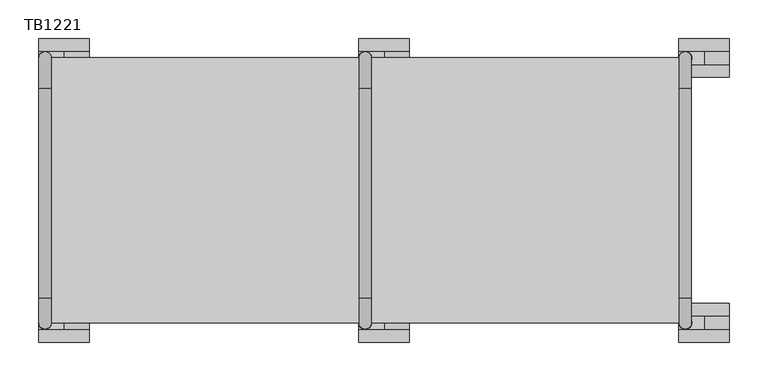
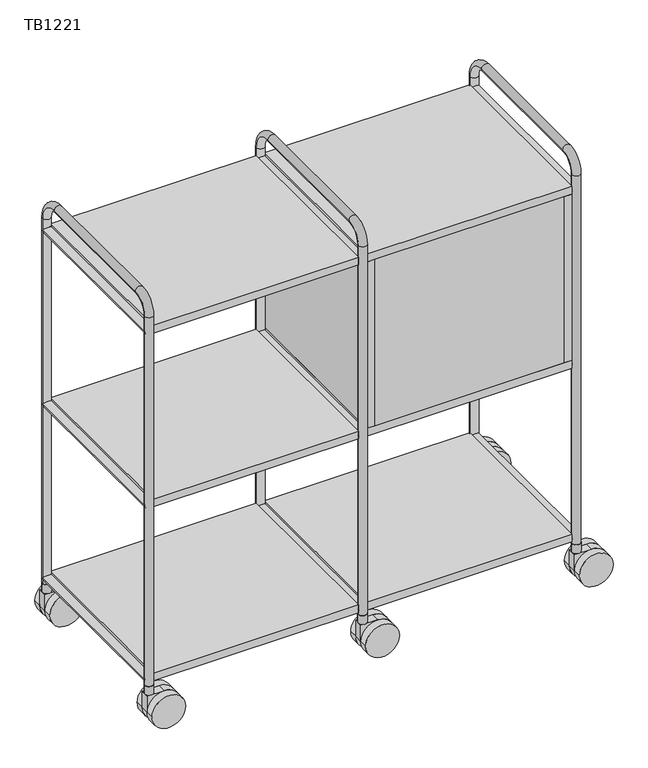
"""IFC4 building model written with IfcOpenShell, lengths in millimetres: furniture geometry, Tubbe Bookcase_Mobile Modular Bookcase : TB1221."""

from ifc_helpers import new_model, si_unit, point, frame, frame_2d, origin, place, context, project, spatial, polyline, circle_curve, ellipse_curve, trimmed, segment, composite_curve, outline, extrude, source, transform, mapped, element, save
from ifc_brep_helpers import plane_surface, cylinder_surface, revolved_surface, advanced_brep


def tb1221_f5202c44(model_context):
    return source(origin(), model_context, "Body", "SolidModel", [
        extrude(outline(polyline([(390.0, -171.5), (24.0, -171.5), (24.0, -155.5), (390.0, -155.5), (390.0, -171.5)])), frame((0.0, 0.0, 458.0), z_axis=(0.0, 0.0, 1.0), x_axis=(1.0, 0.0, 0.0)), (0.0, 0.0, 1.0), 340.0),
        extrude(outline(polyline([(390.0, 155.5), (24.0, 155.5), (24.0, 171.5), (390.0, 171.5), (390.0, 155.5)])), frame((0.0, 0.0, 458.0), z_axis=(0.0, 0.0, 1.0), x_axis=(1.0, 0.0, 0.0)), (0.0, 0.0, 1.0), 340.0),
        extrude(outline(polyline([(406.0, 171.5), (406.0, -171.5), (390.0, -171.5), (390.0, 171.5), (406.0, 171.5)])), frame((0.0, 0.0, 458.0), z_axis=(0.0, 0.0, 1.0), x_axis=(1.0, 0.0, 0.0)), (0.0, 0.0, 1.0), 340.0),
        extrude(outline(polyline([(24.0, 171.5), (24.0, -171.5), (8.0, -171.5), (8.0, 171.5), (24.0, 171.5)])), frame((0.0, 0.0, 458.0), z_axis=(0.0, 0.0, 1.0), x_axis=(1.0, 0.0, 0.0)), (0.0, 0.0, 1.0), 340.0),
        extrude(outline(polyline([(406.0, 171.5), (406.0, -171.5), (8.0, -171.5), (8.0, 171.5), (406.0, 171.5)])), frame((0.0, 0.0, 798.0), z_axis=(0.0, 0.0, 1.0), x_axis=(1.0, 0.0, 0.0)), (0.0, 0.0, 1.0), 16.0),
        extrude(outline(polyline([(406.0, 171.5), (406.0, -171.5), (8.0, -171.5), (8.0, 171.5), (406.0, 171.5)])), frame((0.0, 0.0, 442.0), z_axis=(0.0, 0.0, 1.0), x_axis=(1.0, 0.0, 0.0)), (0.0, 0.0, 1.0), 16.0),
        extrude(outline(polyline([(-8.0, 171.5), (-8.0, -171.5), (-406.0, -171.5), (-406.0, 171.5), (-8.0, 171.5)])), frame((0.0, 0.0, 442.0), z_axis=(0.0, 0.0, 1.0), x_axis=(1.0, 0.0, 0.0)), (0.0, 0.0, 1.0), 16.0),
        extrude(outline(polyline([(-8.0, 171.5), (-8.0, -171.5), (-406.0, -171.5), (-406.0, 171.5), (-8.0, 171.5)])), frame((0.0, 0.0, 86.0), z_axis=(0.0, 0.0, 1.0), x_axis=(1.0, 0.0, 0.0)), (0.0, 0.0, 1.0), 16.0),
        extrude(outline(polyline([(406.0, 171.5), (406.0, -171.5), (8.0, -171.5), (8.0, 171.5), (406.0, 171.5)])), frame((0.0, 0.0, 86.0), z_axis=(0.0, 0.0, 1.0), x_axis=(1.0, 0.0, 0.0)), (0.0, 0.0, 1.0), 16.0),
        extrude(outline(polyline([(-8.0, 171.5), (-8.0, -171.5), (-406.0, -171.5), (-406.0, 171.5), (-8.0, 171.5)])), frame((0.0, 0.0, 798.0), z_axis=(0.0, 0.0, 1.0), x_axis=(1.0, 0.0, 0.0)), (0.0, 0.0, 1.0), 16.0),
        extrude(outline(composite_curve([segment(trimmed(circle_curve(frame_2d((414.0, -171.5)), 8.3333333), [point((405.6666667, -171.5))], [point((422.3333333, -171.5))], False, "CARTESIAN"), True, "CONTINUOUS"), segment(trimmed(circle_curve(frame_2d((414.0, -171.5)), 8.3333333), [point((422.3333333, -171.5))], [point((405.6666667, -171.5))], False, "CARTESIAN"), True, "CONTINUOUS")], self_intersect=False)), frame((0.0, 0.0, 65.3), z_axis=(0.0, 0.0, 1.0), x_axis=(1.0, 0.0, 0.0)), (0.0, 0.0, 1.0), 17.6),
        extrude(outline(composite_curve([segment(polyline([(65.3, 438.32), (65.3, 405.67), (32.65, 405.67), (32.65, 470.97)]), True, "CONTINUOUS"), segment(trimmed(circle_curve(frame_2d((32.65, 438.32)), 32.65), [point((32.65, 470.97))], [point((65.3, 438.32))], False, "CARTESIAN"), True, "CONTINUOUS")], self_intersect=False)), frame((0.0, -179.8333333, 0.0), z_axis=(0.0, 1.0, 0.0), x_axis=(0.0, 0.0, 1.0)), (0.0, 0.0, 1.0), 16.6666667),
        extrude(outline(composite_curve([segment(trimmed(circle_curve(frame_2d((32.65, 438.32)), 32.65), [point((32.65, 405.67))], [point((32.65, 470.97))], False, "CARTESIAN"), True, "CONTINUOUS"), segment(trimmed(circle_curve(frame_2d((32.65, 438.32)), 32.65), [point((32.65, 470.97))], [point((32.65, 405.67))], False, "CARTESIAN"), True, "CONTINUOUS")], self_intersect=False)), frame((0.0, -163.1666667, 0.0), z_axis=(0.0, 1.0, 0.0), x_axis=(0.0, 0.0, 1.0)), (0.0, 0.0, 1.0), 16.6666667),
        extrude(outline(composite_curve([segment(trimmed(circle_curve(frame_2d((32.65, 438.32)), 32.65), [point((32.65, 405.67))], [point((32.65, 470.97))], False, "CARTESIAN"), True, "CONTINUOUS"), segment(trimmed(circle_curve(frame_2d((32.65, 438.32)), 32.65), [point((32.65, 470.97))], [point((32.65, 405.67))], False, "CARTESIAN"), True, "CONTINUOUS")], self_intersect=False)), frame((0.0, -196.5, 0.0), z_axis=(0.0, 1.0, 0.0), x_axis=(0.0, 0.0, 1.0)), (0.0, 0.0, 1.0), 16.6666667),
        extrude(outline(composite_curve([segment(trimmed(circle_curve(frame_2d((414.0, 171.5)), 8.3333333), [point((405.6666667, 171.5))], [point((422.3333333, 171.5))], False, "CARTESIAN"), True, "CONTINUOUS"), segment(trimmed(circle_curve(frame_2d((414.0, 171.5)), 8.3333333), [point((422.3333333, 171.5))], [point((405.6666667, 171.5))], False, "CARTESIAN"), True, "CONTINUOUS")], self_intersect=False)), frame((0.0, 0.0, 65.3), z_axis=(0.0, 0.0, 1.0), x_axis=(1.0, 0.0, 0.0)), (0.0, 0.0, 1.0), 17.6),
        extrude(outline(composite_curve([segment(polyline([(65.3, 438.32), (65.3, 405.67), (32.65, 405.67), (32.65, 470.97)]), True, "CONTINUOUS"), segment(trimmed(circle_curve(frame_2d((32.65, 438.32)), 32.65), [point((32.65, 470.97))], [point((65.3, 438.32))], False, "CARTESIAN"), True, "CONTINUOUS")], self_intersect=False)), frame((0.0, 163.1666667, 0.0), z_axis=(0.0, 1.0, 0.0), x_axis=(0.0, 0.0, 1.0)), (0.0, 0.0, 1.0), 16.6666667),
        extrude(outline(composite_curve([segment(trimmed(circle_curve(frame_2d((32.65, 438.32)), 32.65), [point((32.65, 405.67))], [point((32.65, 470.97))], False, "CARTESIAN"), True, "CONTINUOUS"), segment(trimmed(circle_curve(frame_2d((32.65, 438.32)), 32.65), [point((32.65, 470.97))], [point((32.65, 405.67))], False, "CARTESIAN"), True, "CONTINUOUS")], self_intersect=False)), frame((0.0, 179.8333333, 0.0), z_axis=(0.0, 1.0, 0.0), x_axis=(0.0, 0.0, 1.0)), (0.0, 0.0, 1.0), 16.6666667),
        extrude(outline(composite_curve([segment(trimmed(circle_curve(frame_2d((32.65, 438.32)), 32.65), [point((32.65, 405.67))], [point((32.65, 470.97))], False, "CARTESIAN"), True, "CONTINUOUS"), segment(trimmed(circle_curve(frame_2d((32.65, 438.32)), 32.65), [point((32.65, 470.97))], [point((32.65, 405.67))], False, "CARTESIAN"), True, "CONTINUOUS")], self_intersect=False)), frame((0.0, 146.5, 0.0), z_axis=(0.0, 1.0, 0.0), x_axis=(0.0, 0.0, 1.0)), (0.0, 0.0, 1.0), 16.6666667),
        extrude(outline(composite_curve([segment(trimmed(circle_curve(frame_2d((806.0, 414.0)), 8.0), [point((806.0, 406.0))], [point((806.0, 422.0))], False, "CARTESIAN"), True, "CONTINUOUS"), segment(trimmed(circle_curve(frame_2d((806.0, 414.0)), 8.0), [point((806.0, 422.0))], [point((806.0, 406.0))], False, "CARTESIAN"), True, "CONTINUOUS")], self_intersect=False)), frame((0.0, -171.5, 0.0), z_axis=(0.0, 1.0, 0.0), x_axis=(0.0, 0.0, 1.0)), (0.0, 0.0, 1.0), 343.0),
        extrude(outline(composite_curve([segment(trimmed(circle_curve(frame_2d((450.0, 414.0)), 8.0), [point((450.0, 406.0))], [point((450.0, 422.0))], False, "CARTESIAN"), True, "CONTINUOUS"), segment(trimmed(circle_curve(frame_2d((450.0, 414.0)), 8.0), [point((450.0, 422.0))], [point((450.0, 406.0))], False, "CARTESIAN"), True, "CONTINUOUS")], self_intersect=False)), frame((0.0, -171.5, 0.0), z_axis=(0.0, 1.0, 0.0), x_axis=(0.0, 0.0, 1.0)), (0.0, 0.0, 1.0), 343.0),
        extrude(outline(composite_curve([segment(trimmed(circle_curve(frame_2d((94.0, 414.0)), 8.0), [point((94.0, 406.0))], [point((94.0, 422.0))], False, "CARTESIAN"), True, "CONTINUOUS"), segment(trimmed(circle_curve(frame_2d((94.0, 414.0)), 8.0), [point((94.0, 422.0))], [point((94.0, 406.0))], False, "CARTESIAN"), True, "CONTINUOUS")], self_intersect=False)), frame((0.0, -171.5, 0.0), z_axis=(0.0, 1.0, 0.0), x_axis=(0.0, 0.0, 1.0)), (0.0, 0.0, 1.0), 343.0),
        advanced_brep(
        [(406.0, 171.5, 82.9), (422.0, 171.5, 82.9), (406.0, 171.5, 830.0), (422.0, 171.5, 830.0), (422.0, 131.5, 870.0), (406.0, 131.5, 870.0), (406.0, -139.5, 870.0), (422.0, -139.5, 870.0), (422.0, -171.5, 838.0), (406.0, -171.5, 838.0), (406.0, -171.5, 82.9), (422.0, -171.5, 82.9)],
        [
            (0, 1, circle_curve(frame((414.0, 171.5, 82.9), z_axis=(0.0, 0.0, -1.0), x_axis=(1.0, 0.0, 0.0)), 8.0)),
            (1, 0, circle_curve(frame((414.0, 171.5, 82.9), z_axis=(0.0, 0.0, -1.0), x_axis=(1.0, 0.0, 0.0)), 8.0)),
            (0, 2),
            (2, 3, circle_curve(frame((414.0, 171.5, 830.0), z_axis=(0.0, 0.0, -1.0), x_axis=(1.0, 0.0, 0.0)), 8.0)),
            (3, 1),
            (3, 2, circle_curve(frame((414.0, 171.5, 830.0), z_axis=(0.0, 0.0, -1.0), x_axis=(1.0, 0.0, 0.0)), 8.0)),
            (4, 5, circle_curve(frame((414.0, 131.5, 870.0), z_axis=(0.0, -1.0, 0.0), x_axis=(1.0, 0.0, 0.0)), 8.0)),
            (5, 6),
            (6, 7, circle_curve(frame((414.0, -139.5, 870.0), z_axis=(0.0, 1.0, 0.0), x_axis=(1.0, 0.0, 0.0)), 8.0)),
            (7, 4),
            (5, 4, circle_curve(frame((414.0, 131.5, 870.0), z_axis=(0.0, -1.0, 0.0), x_axis=(1.0, 0.0, 0.0)), 8.0)),
            (7, 6, circle_curve(frame((414.0, -139.5, 870.0), z_axis=(0.0, 1.0, 0.0), x_axis=(1.0, 0.0, 0.0)), 8.0)),
            (8, 7, circle_curve(frame((422.0, -139.5, 838.0), z_axis=(-1.0, 0.0, 0.0), x_axis=(0.0, 0.0, 1.0)), 32.0)),
            (6, 9, circle_curve(frame((406.0, -139.5, 838.0), z_axis=(1.0, 0.0, 0.0), x_axis=(0.0, 0.0, 1.0)), 32.0)),
            (9, 8, circle_curve(frame((414.0, -171.5, 838.0), z_axis=(0.0, 0.0, 1.0), x_axis=(1.0, 0.0, 0.0)), 8.0)),
            (8, 9, circle_curve(frame((414.0, -171.5, 838.0), z_axis=(0.0, 0.0, 1.0), x_axis=(1.0, 0.0, 0.0)), 8.0)),
            (10, 11, circle_curve(frame((414.0, -171.5, 82.9), z_axis=(0.0, 0.0, -1.0), x_axis=(1.0, 0.0, 0.0)), 8.0)),
            (11, 10, circle_curve(frame((414.0, -171.5, 82.9), z_axis=(0.0, 0.0, -1.0), x_axis=(1.0, 0.0, 0.0)), 8.0)),
            (9, 10),
            (11, 8),
            (4, 3, circle_curve(frame((422.0, 131.5, 830.0), z_axis=(-1.0, 0.0, 0.0), x_axis=(0.0, 1.0, 0.0)), 40.0)),
            (2, 5, circle_curve(frame((406.0, 131.5, 830.0), z_axis=(1.0, 0.0, 0.0), x_axis=(0.0, 1.0, 0.0)), 40.0)),
        ],
        [
            plane_surface(frame((414.0, 171.5, 82.9), z_axis=(0.0, 0.0, -1.0), x_axis=(1.0, 0.0, 0.0))),
            cylinder_surface(frame((414.0, 171.5, 82.9), z_axis=(0.0, 0.0, -1.0), x_axis=(1.0, 0.0, 0.0)), 8.0),
            cylinder_surface(frame((414.0, 131.5, 870.0), z_axis=(0.0, 1.0, 0.0), x_axis=(1.0, 0.0, 0.0)), 8.0),
            revolved_surface(trimmed(ellipse_curve(frame((414.0, -139.5, 870.0), z_axis=(0.0, 1.0, 0.0), x_axis=(1.0, 0.0, 0.0)), 8.0, 8.0), [point((406.0, -139.5, 870.0))], [point((422.0, -139.5, 870.0))], True, "CARTESIAN"), (414.0, -139.5, 838.0), (1.0, 0.0, 0.0)),
            revolved_surface(trimmed(ellipse_curve(frame((414.0, -139.5, 870.0), z_axis=(0.0, 1.0, 0.0), x_axis=(1.0, 0.0, 0.0)), 8.0, 8.0), [point((422.0, -139.5, 870.0))], [point((406.0, -139.5, 870.0))], True, "CARTESIAN"), (414.0, -139.5, 838.0), (1.0, 0.0, 0.0)),
            plane_surface(frame((414.0, -171.5, 82.9), z_axis=(0.0, 0.0, -1.0), x_axis=(1.0, 0.0, 0.0))),
            cylinder_surface(frame((414.0, -171.5, 838.0), z_axis=(0.0, 0.0, 1.0), x_axis=(1.0, 0.0, 0.0)), 8.0),
            revolved_surface(trimmed(ellipse_curve(frame((414.0, 171.5, 830.0), z_axis=(0.0, 0.0, -1.0), x_axis=(1.0, 0.0, 0.0)), 8.0, 8.0), [point((406.0, 171.5, 830.0))], [point((422.0, 171.5, 830.0))], True, "CARTESIAN"), (414.0, 131.5, 830.0), (1.0, 0.0, 0.0)),
            revolved_surface(trimmed(ellipse_curve(frame((414.0, 171.5, 830.0), z_axis=(0.0, 0.0, -1.0), x_axis=(1.0, 0.0, 0.0)), 8.0, 8.0), [point((422.0, 171.5, 830.0))], [point((406.0, 171.5, 830.0))], True, "CARTESIAN"), (414.0, 131.5, 830.0), (1.0, 0.0, 0.0)),
        ],
        [
            (0, [[1, 2]]),
            (1, [[-1, 3, 4, 5]]),
            (1, [[-2, -5, 6, -3]]),
            (2, [[7, 8, 9, 10]]),
            (2, [[11, -10, 12, -8]]),
            (3, [[13, -9, 14, 15]]),
            (4, [[-14, -12, -13, 16]]),
            (5, [[17, 18]]),
            (6, [[-15, 19, -18, 20]]),
            (6, [[-16, -20, -17, -19]]),
            (7, [[21, -4, 22, -7]]),
            (8, [[-22, -6, -21, -11]]),
        ],
    ),
        extrude(outline(composite_curve([segment(trimmed(circle_curve(frame_2d((0.0, -171.5)), 8.3333333), [point((-8.3333333, -171.5))], [point((8.3333333, -171.5))], False, "CARTESIAN"), True, "CONTINUOUS"), segment(trimmed(circle_curve(frame_2d((0.0, -171.5)), 8.3333333), [point((8.3333333, -171.5))], [point((-8.3333333, -171.5))], False, "CARTESIAN"), True, "CONTINUOUS")], self_intersect=False)), frame((0.0, 0.0, 65.3), z_axis=(0.0, 0.0, 1.0), x_axis=(1.0, 0.0, 0.0)), (0.0, 0.0, 1.0), 17.6),
        extrude(outline(composite_curve([segment(polyline([(65.3, 24.32), (65.3, -8.33), (32.65, -8.33), (32.65, 56.97)]), True, "CONTINUOUS"), segment(trimmed(circle_curve(frame_2d((32.65, 24.32)), 32.65), [point((32.65, 56.97))], [point((65.3, 24.32))], False, "CARTESIAN"), True, "CONTINUOUS")], self_intersect=False)), frame((0.0, -179.8333333, 0.0), z_axis=(0.0, 1.0, 0.0), x_axis=(0.0, 0.0, 1.0)), (0.0, 0.0, 1.0), 16.6666667),
        extrude(outline(composite_curve([segment(trimmed(circle_curve(frame_2d((32.65, 24.32)), 32.65), [point((32.65, -8.33))], [point((32.65, 56.97))], False, "CARTESIAN"), True, "CONTINUOUS"), segment(trimmed(circle_curve(frame_2d((32.65, 24.32)), 32.65), [point((32.65, 56.97))], [point((32.65, -8.33))], False, "CARTESIAN"), True, "CONTINUOUS")], self_intersect=False)), frame((0.0, -163.1666667, 0.0), z_axis=(0.0, 1.0, 0.0), x_axis=(0.0, 0.0, 1.0)), (0.0, 0.0, 1.0), 16.6666667),
        extrude(outline(composite_curve([segment(trimmed(circle_curve(frame_2d((32.65, 24.32)), 32.65), [point((32.65, -8.33))], [point((32.65, 56.97))], False, "CARTESIAN"), True, "CONTINUOUS"), segment(trimmed(circle_curve(frame_2d((32.65, 24.32)), 32.65), [point((32.65, 56.97))], [point((32.65, -8.33))], False, "CARTESIAN"), True, "CONTINUOUS")], self_intersect=False)), frame((0.0, -196.5, 0.0), z_axis=(0.0, 1.0, 0.0), x_axis=(0.0, 0.0, 1.0)), (0.0, 0.0, 1.0), 16.6666667),
        extrude(outline(composite_curve([segment(trimmed(circle_curve(frame_2d((0.0, 171.5)), 8.3333333), [point((-8.3333333, 171.5))], [point((8.3333333, 171.5))], False, "CARTESIAN"), True, "CONTINUOUS"), segment(trimmed(circle_curve(frame_2d((0.0, 171.5)), 8.3333333), [point((8.3333333, 171.5))], [point((-8.3333333, 171.5))], False, "CARTESIAN"), True, "CONTINUOUS")], self_intersect=False)), frame((0.0, 0.0, 65.3), z_axis=(0.0, 0.0, 1.0), x_axis=(1.0, 0.0, 0.0)), (0.0, 0.0, 1.0), 17.6),
        extrude(outline(composite_curve([segment(polyline([(65.3, 24.32), (65.3, -8.33), (32.65, -8.33), (32.65, 56.97)]), True, "CONTINUOUS"), segment(trimmed(circle_curve(frame_2d((32.65, 24.32)), 32.65), [point((32.65, 56.97))], [point((65.3, 24.32))], False, "CARTESIAN"), True, "CONTINUOUS")], self_intersect=False)), frame((0.0, 163.1666667, 0.0), z_axis=(0.0, 1.0, 0.0), x_axis=(0.0, 0.0, 1.0)), (0.0, 0.0, 1.0), 16.6666667),
        extrude(outline(composite_curve([segment(trimmed(circle_curve(frame_2d((32.65, 24.32)), 32.65), [point((32.65, -8.33))], [point((32.65, 56.97))], False, "CARTESIAN"), True, "CONTINUOUS"), segment(trimmed(circle_curve(frame_2d((32.65, 24.32)), 32.65), [point((32.65, 56.97))], [point((32.65, -8.33))], False, "CARTESIAN"), True, "CONTINUOUS")], self_intersect=False)), frame((0.0, 179.8333333, 0.0), z_axis=(0.0, 1.0, 0.0), x_axis=(0.0, 0.0, 1.0)), (0.0, 0.0, 1.0), 16.6666667),
        extrude(outline(composite_curve([segment(trimmed(circle_curve(frame_2d((32.65, 24.32)), 32.65), [point((32.65, -8.33))], [point((32.65, 56.97))], False, "CARTESIAN"), True, "CONTINUOUS"), segment(trimmed(circle_curve(frame_2d((32.65, 24.32)), 32.65), [point((32.65, 56.97))], [point((32.65, -8.33))], False, "CARTESIAN"), True, "CONTINUOUS")], self_intersect=False)), frame((0.0, 146.5, 0.0), z_axis=(0.0, 1.0, 0.0), x_axis=(0.0, 0.0, 1.0)), (0.0, 0.0, 1.0), 16.6666667),
        extrude(outline(composite_curve([segment(trimmed(circle_curve(frame_2d((806.0, 0.0)), 8.0), [point((806.0, -8.0))], [point((806.0, 8.0))], False, "CARTESIAN"), True, "CONTINUOUS"), segment(trimmed(circle_curve(frame_2d((806.0, 0.0)), 8.0), [point((806.0, 8.0))], [point((806.0, -8.0))], False, "CARTESIAN"), True, "CONTINUOUS")], self_intersect=False)), frame((0.0, -171.5, 0.0), z_axis=(0.0, 1.0, 0.0), x_axis=(0.0, 0.0, 1.0)), (0.0, 0.0, 1.0), 343.0),
        extrude(outline(composite_curve([segment(trimmed(circle_curve(frame_2d((450.0, 0.0)), 8.0), [point((450.0, -8.0))], [point((450.0, 8.0))], False, "CARTESIAN"), True, "CONTINUOUS"), segment(trimmed(circle_curve(frame_2d((450.0, 0.0)), 8.0), [point((450.0, 8.0))], [point((450.0, -8.0))], False, "CARTESIAN"), True, "CONTINUOUS")], self_intersect=False)), frame((0.0, -171.5, 0.0), z_axis=(0.0, 1.0, 0.0), x_axis=(0.0, 0.0, 1.0)), (0.0, 0.0, 1.0), 343.0),
        extrude(outline(composite_curve([segment(trimmed(circle_curve(frame_2d((94.0, 0.0)), 8.0), [point((94.0, -8.0))], [point((94.0, 8.0))], False, "CARTESIAN"), True, "CONTINUOUS"), segment(trimmed(circle_curve(frame_2d((94.0, 0.0)), 8.0), [point((94.0, 8.0))], [point((94.0, -8.0))], False, "CARTESIAN"), True, "CONTINUOUS")], self_intersect=False)), frame((0.0, -171.5, 0.0), z_axis=(0.0, 1.0, 0.0), x_axis=(0.0, 0.0, 1.0)), (0.0, 0.0, 1.0), 343.0),
        advanced_brep(
        [(-8.0, 171.5, 82.9), (8.0, 171.5, 82.9), (-8.0, 171.5, 830.0), (8.0, 171.5, 830.0), (8.0, 131.5, 870.0), (-8.0, 131.5, 870.0), (-8.0, -139.5, 870.0), (8.0, -139.5, 870.0), (8.0, -171.5, 838.0), (-8.0, -171.5, 838.0), (-8.0, -171.5, 82.9), (8.0, -171.5, 82.9)],
        [
            (0, 1, circle_curve(frame((0.0, 171.5, 82.9), z_axis=(0.0, 0.0, -1.0), x_axis=(1.0, 0.0, 0.0)), 8.0)),
            (1, 0, circle_curve(frame((0.0, 171.5, 82.9), z_axis=(0.0, 0.0, -1.0), x_axis=(1.0, 0.0, 0.0)), 8.0)),
            (0, 2),
            (2, 3, circle_curve(frame((0.0, 171.5, 830.0), z_axis=(0.0, 0.0, -1.0), x_axis=(1.0, 0.0, 0.0)), 8.0)),
            (3, 1),
            (3, 2, circle_curve(frame((0.0, 171.5, 830.0), z_axis=(0.0, 0.0, -1.0), x_axis=(1.0, 0.0, 0.0)), 8.0)),
            (4, 5, circle_curve(frame((0.0, 131.5, 870.0), z_axis=(0.0, -1.0, 0.0), x_axis=(1.0, 0.0, 0.0)), 8.0)),
            (5, 6),
            (6, 7, circle_curve(frame((0.0, -139.5, 870.0), z_axis=(0.0, 1.0, 0.0), x_axis=(1.0, 0.0, 0.0)), 8.0)),
            (7, 4),
            (5, 4, circle_curve(frame((0.0, 131.5, 870.0), z_axis=(0.0, -1.0, 0.0), x_axis=(1.0, 0.0, 0.0)), 8.0)),
            (7, 6, circle_curve(frame((0.0, -139.5, 870.0), z_axis=(0.0, 1.0, 0.0), x_axis=(1.0, 0.0, 0.0)), 8.0)),
            (8, 7, circle_curve(frame((8.0, -139.5, 838.0), z_axis=(-1.0, 0.0, 0.0), x_axis=(0.0, 0.0, 1.0)), 32.0)),
            (6, 9, circle_curve(frame((-8.0, -139.5, 838.0), z_axis=(1.0, 0.0, 0.0), x_axis=(0.0, 0.0, 1.0)), 32.0)),
            (9, 8, circle_curve(frame((0.0, -171.5, 838.0), z_axis=(0.0, 0.0, 1.0), x_axis=(1.0, 0.0, 0.0)), 8.0)),
            (8, 9, circle_curve(frame((0.0, -171.5, 838.0), z_axis=(0.0, 0.0, 1.0), x_axis=(1.0, 0.0, 0.0)), 8.0)),
            (10, 11, circle_curve(frame((0.0, -171.5, 82.9), z_axis=(0.0, 0.0, -1.0), x_axis=(1.0, 0.0, 0.0)), 8.0)),
            (11, 10, circle_curve(frame((0.0, -171.5, 82.9), z_axis=(0.0, 0.0, -1.0), x_axis=(1.0, 0.0, 0.0)), 8.0)),
            (9, 10),
            (11, 8),
            (4, 3, circle_curve(frame((8.0, 131.5, 830.0), z_axis=(-1.0, 0.0, 0.0), x_axis=(0.0, 1.0, 0.0)), 40.0)),
            (2, 5, circle_curve(frame((-8.0, 131.5, 830.0), z_axis=(1.0, 0.0, 0.0), x_axis=(0.0, 1.0, 0.0)), 40.0)),
        ],
        [
            plane_surface(frame((0.0, 171.5, 82.9), z_axis=(0.0, 0.0, -1.0), x_axis=(1.0, 0.0, 0.0))),
            cylinder_surface(frame((0.0, 171.5, 82.9), z_axis=(0.0, 0.0, -1.0), x_axis=(1.0, 0.0, 0.0)), 8.0),
            cylinder_surface(frame((0.0, 131.5, 870.0), z_axis=(0.0, 1.0, 0.0), x_axis=(1.0, 0.0, 0.0)), 8.0),
            revolved_surface(trimmed(ellipse_curve(frame((0.0, -139.5, 870.0), z_axis=(0.0, 1.0, 0.0), x_axis=(1.0, 0.0, 0.0)), 8.0, 8.0), [point((-8.0, -139.5, 870.0))], [point((8.0, -139.5, 870.0))], True, "CARTESIAN"), (0.0, -139.5, 838.0), (1.0, 0.0, 0.0)),
            revolved_surface(trimmed(ellipse_curve(frame((0.0, -139.5, 870.0), z_axis=(0.0, 1.0, 0.0), x_axis=(1.0, 0.0, 0.0)), 8.0, 8.0), [point((8.0, -139.5, 870.0))], [point((-8.0, -139.5, 870.0))], True, "CARTESIAN"), (0.0, -139.5, 838.0), (1.0, 0.0, 0.0)),
            plane_surface(frame((0.0, -171.5, 82.9), z_axis=(0.0, 0.0, -1.0), x_axis=(1.0, 0.0, 0.0))),
            cylinder_surface(frame((0.0, -171.5, 838.0), z_axis=(0.0, 0.0, 1.0), x_axis=(1.0, 0.0, 0.0)), 8.0),
            revolved_surface(trimmed(ellipse_curve(frame((0.0, 171.5, 830.0), z_axis=(0.0, 0.0, -1.0), x_axis=(1.0, 0.0, 0.0)), 8.0, 8.0), [point((-8.0, 171.5, 830.0))], [point((8.0, 171.5, 830.0))], True, "CARTESIAN"), (0.0, 131.5, 830.0), (1.0, 0.0, 0.0)),
            revolved_surface(trimmed(ellipse_curve(frame((0.0, 171.5, 830.0), z_axis=(0.0, 0.0, -1.0), x_axis=(1.0, 0.0, 0.0)), 8.0, 8.0), [point((8.0, 171.5, 830.0))], [point((-8.0, 171.5, 830.0))], True, "CARTESIAN"), (0.0, 131.5, 830.0), (1.0, 0.0, 0.0)),
        ],
        [
            (0, [[1, 2]]),
            (1, [[-1, 3, 4, 5]]),
            (1, [[-2, -5, 6, -3]]),
            (2, [[7, 8, 9, 10]]),
            (2, [[11, -10, 12, -8]]),
            (3, [[13, -9, 14, 15]]),
            (4, [[-14, -12, -13, 16]]),
            (5, [[17, 18]]),
            (6, [[-15, 19, -18, 20]]),
            (6, [[-16, -20, -17, -19]]),
            (7, [[21, -4, 22, -7]]),
            (8, [[-22, -6, -21, -11]]),
        ],
    ),
        extrude(outline(composite_curve([segment(trimmed(circle_curve(frame_2d((-414.0, -171.5)), 8.3333333), [point((-422.3333333, -171.5))], [point((-405.6666667, -171.5))], False, "CARTESIAN"), True, "CONTINUOUS"), segment(trimmed(circle_curve(frame_2d((-414.0, -171.5)), 8.3333333), [point((-405.6666667, -171.5))], [point((-422.3333333, -171.5))], False, "CARTESIAN"), True, "CONTINUOUS")], self_intersect=False)), frame((0.0, 0.0, 65.3), z_axis=(0.0, 0.0, 1.0), x_axis=(1.0, 0.0, 0.0)), (0.0, 0.0, 1.0), 17.6),
        extrude(outline(composite_curve([segment(polyline([(65.3, -389.68), (65.3, -422.33), (32.65, -422.33), (32.65, -357.03)]), True, "CONTINUOUS"), segment(trimmed(circle_curve(frame_2d((32.65, -389.68)), 32.65), [point((32.65, -357.03))], [point((65.3, -389.68))], False, "CARTESIAN"), True, "CONTINUOUS")], self_intersect=False)), frame((0.0, -179.8333333, 0.0), z_axis=(0.0, 1.0, 0.0), x_axis=(0.0, 0.0, 1.0)), (0.0, 0.0, 1.0), 16.6666667),
        extrude(outline(composite_curve([segment(trimmed(circle_curve(frame_2d((32.65, -389.68)), 32.65), [point((32.65, -422.33))], [point((32.65, -357.03))], False, "CARTESIAN"), True, "CONTINUOUS"), segment(trimmed(circle_curve(frame_2d((32.65, -389.68)), 32.65), [point((32.65, -357.03))], [point((32.65, -422.33))], False, "CARTESIAN"), True, "CONTINUOUS")], self_intersect=False)), frame((0.0, -163.1666667, 0.0), z_axis=(0.0, 1.0, 0.0), x_axis=(0.0, 0.0, 1.0)), (0.0, 0.0, 1.0), 16.6666667),
        extrude(outline(composite_curve([segment(trimmed(circle_curve(frame_2d((32.65, -389.68)), 32.65), [point((32.65, -422.33))], [point((32.65, -357.03))], False, "CARTESIAN"), True, "CONTINUOUS"), segment(trimmed(circle_curve(frame_2d((32.65, -389.68)), 32.65), [point((32.65, -357.03))], [point((32.65, -422.33))], False, "CARTESIAN"), True, "CONTINUOUS")], self_intersect=False)), frame((0.0, -196.5, 0.0), z_axis=(0.0, 1.0, 0.0), x_axis=(0.0, 0.0, 1.0)), (0.0, 0.0, 1.0), 16.6666667),
        extrude(outline(composite_curve([segment(trimmed(circle_curve(frame_2d((-414.0, 171.5)), 8.3333333), [point((-422.3333333, 171.5))], [point((-405.6666667, 171.5))], False, "CARTESIAN"), True, "CONTINUOUS"), segment(trimmed(circle_curve(frame_2d((-414.0, 171.5)), 8.3333333), [point((-405.6666667, 171.5))], [point((-422.3333333, 171.5))], False, "CARTESIAN"), True, "CONTINUOUS")], self_intersect=False)), frame((0.0, 0.0, 65.3), z_axis=(0.0, 0.0, 1.0), x_axis=(1.0, 0.0, 0.0)), (0.0, 0.0, 1.0), 17.6),
        extrude(outline(composite_curve([segment(polyline([(65.3, -389.68), (65.3, -422.33), (32.65, -422.33), (32.65, -357.03)]), True, "CONTINUOUS"), segment(trimmed(circle_curve(frame_2d((32.65, -389.68)), 32.65), [point((32.65, -357.03))], [point((65.3, -389.68))], False, "CARTESIAN"), True, "CONTINUOUS")], self_intersect=False)), frame((0.0, 163.1666667, 0.0), z_axis=(0.0, 1.0, 0.0), x_axis=(0.0, 0.0, 1.0)), (0.0, 0.0, 1.0), 16.6666667),
        extrude(outline(composite_curve([segment(trimmed(circle_curve(frame_2d((32.65, -389.68)), 32.65), [point((32.65, -422.33))], [point((32.65, -357.03))], False, "CARTESIAN"), True, "CONTINUOUS"), segment(trimmed(circle_curve(frame_2d((32.65, -389.68)), 32.65), [point((32.65, -357.03))], [point((32.65, -422.33))], False, "CARTESIAN"), True, "CONTINUOUS")], self_intersect=False)), frame((0.0, 179.8333333, 0.0), z_axis=(0.0, 1.0, 0.0), x_axis=(0.0, 0.0, 1.0)), (0.0, 0.0, 1.0), 16.6666667),
        extrude(outline(composite_curve([segment(trimmed(circle_curve(frame_2d((32.65, -389.68)), 32.65), [point((32.65, -422.33))], [point((32.65, -357.03))], False, "CARTESIAN"), True, "CONTINUOUS"), segment(trimmed(circle_curve(frame_2d((32.65, -389.68)), 32.65), [point((32.65, -357.03))], [point((32.65, -422.33))], False, "CARTESIAN"), True, "CONTINUOUS")], self_intersect=False)), frame((0.0, 146.5, 0.0), z_axis=(0.0, 1.0, 0.0), x_axis=(0.0, 0.0, 1.0)), (0.0, 0.0, 1.0), 16.6666667),
        extrude(outline(composite_curve([segment(trimmed(circle_curve(frame_2d((806.0, -414.0)), 8.0), [point((806.0, -422.0))], [point((806.0, -406.0))], False, "CARTESIAN"), True, "CONTINUOUS"), segment(trimmed(circle_curve(frame_2d((806.0, -414.0)), 8.0), [point((806.0, -406.0))], [point((806.0, -422.0))], False, "CARTESIAN"), True, "CONTINUOUS")], self_intersect=False)), frame((0.0, -171.5, 0.0), z_axis=(0.0, 1.0, 0.0), x_axis=(0.0, 0.0, 1.0)), (0.0, 0.0, 1.0), 343.0),
        extrude(outline(composite_curve([segment(trimmed(circle_curve(frame_2d((450.0, -414.0)), 8.0), [point((450.0, -422.0))], [point((450.0, -406.0))], False, "CARTESIAN"), True, "CONTINUOUS"), segment(trimmed(circle_curve(frame_2d((450.0, -414.0)), 8.0), [point((450.0, -406.0))], [point((450.0, -422.0))], False, "CARTESIAN"), True, "CONTINUOUS")], self_intersect=False)), frame((0.0, -171.5, 0.0), z_axis=(0.0, 1.0, 0.0), x_axis=(0.0, 0.0, 1.0)), (0.0, 0.0, 1.0), 343.0),
        extrude(outline(composite_curve([segment(trimmed(circle_curve(frame_2d((94.0, -414.0)), 8.0), [point((94.0, -422.0))], [point((94.0, -406.0))], False, "CARTESIAN"), True, "CONTINUOUS"), segment(trimmed(circle_curve(frame_2d((94.0, -414.0)), 8.0), [point((94.0, -406.0))], [point((94.0, -422.0))], False, "CARTESIAN"), True, "CONTINUOUS")], self_intersect=False)), frame((0.0, -171.5, 0.0), z_axis=(0.0, 1.0, 0.0), x_axis=(0.0, 0.0, 1.0)), (0.0, 0.0, 1.0), 343.0),
        advanced_brep(
        [(-422.0, 171.5, 82.9), (-406.0, 171.5, 82.9), (-422.0, 171.5, 830.0), (-406.0, 171.5, 830.0), (-406.0, 131.5, 870.0), (-422.0, 131.5, 870.0), (-422.0, -139.5, 870.0), (-406.0, -139.5, 870.0), (-406.0, -171.5, 838.0), (-422.0, -171.5, 838.0), (-422.0, -171.5, 82.9), (-406.0, -171.5, 82.9)],
        [
            (0, 1, circle_curve(frame((-414.0, 171.5, 82.9), z_axis=(0.0, 0.0, -1.0), x_axis=(1.0, 0.0, 0.0)), 8.0)),
            (1, 0, circle_curve(frame((-414.0, 171.5, 82.9), z_axis=(0.0, 0.0, -1.0), x_axis=(1.0, 0.0, 0.0)), 8.0)),
            (0, 2),
            (2, 3, circle_curve(frame((-414.0, 171.5, 830.0), z_axis=(0.0, 0.0, -1.0), x_axis=(1.0, 0.0, 0.0)), 8.0)),
            (3, 1),
            (3, 2, circle_curve(frame((-414.0, 171.5, 830.0), z_axis=(0.0, 0.0, -1.0), x_axis=(1.0, 0.0, 0.0)), 8.0)),
            (4, 5, circle_curve(frame((-414.0, 131.5, 870.0), z_axis=(0.0, -1.0, 0.0), x_axis=(1.0, 0.0, 0.0)), 8.0)),
            (5, 6),
            (6, 7, circle_curve(frame((-414.0, -139.5, 870.0), z_axis=(0.0, 1.0, 0.0), x_axis=(1.0, 0.0, 0.0)), 8.0)),
            (7, 4),
            (5, 4, circle_curve(frame((-414.0, 131.5, 870.0), z_axis=(0.0, -1.0, 0.0), x_axis=(1.0, 0.0, 0.0)), 8.0)),
            (7, 6, circle_curve(frame((-414.0, -139.5, 870.0), z_axis=(0.0, 1.0, 0.0), x_axis=(1.0, 0.0, 0.0)), 8.0)),
            (8, 7, circle_curve(frame((-406.0, -139.5, 838.0), z_axis=(-1.0, 0.0, 0.0), x_axis=(0.0, 0.0, 1.0)), 32.0)),
            (6, 9, circle_curve(frame((-422.0, -139.5, 838.0), z_axis=(1.0, 0.0, 0.0), x_axis=(0.0, 0.0, 1.0)), 32.0)),
            (9, 8, circle_curve(frame((-414.0, -171.5, 838.0), z_axis=(0.0, 0.0, 1.0), x_axis=(1.0, 0.0, 0.0)), 8.0)),
            (8, 9, circle_curve(frame((-414.0, -171.5, 838.0), z_axis=(0.0, 0.0, 1.0), x_axis=(1.0, 0.0, 0.0)), 8.0)),
            (10, 11, circle_curve(frame((-414.0, -171.5, 82.9), z_axis=(0.0, 0.0, -1.0), x_axis=(1.0, 0.0, 0.0)), 8.0)),
            (11, 10, circle_curve(frame((-414.0, -171.5, 82.9), z_axis=(0.0, 0.0, -1.0), x_axis=(1.0, 0.0, 0.0)), 8.0)),
            (9, 10),
            (11, 8),
            (4, 3, circle_curve(frame((-406.0, 131.5, 830.0), z_axis=(-1.0, 0.0, 0.0), x_axis=(0.0, 1.0, 0.0)), 40.0)),
            (2, 5, circle_curve(frame((-422.0, 131.5, 830.0), z_axis=(1.0, 0.0, 0.0), x_axis=(0.0, 1.0, 0.0)), 40.0)),
        ],
        [
            plane_surface(frame((-414.0, 171.5, 82.9), z_axis=(0.0, 0.0, -1.0), x_axis=(1.0, 0.0, 0.0))),
            cylinder_surface(frame((-414.0, 171.5, 82.9), z_axis=(0.0, 0.0, -1.0), x_axis=(1.0, 0.0, 0.0)), 8.0),
            cylinder_surface(frame((-414.0, 131.5, 870.0), z_axis=(0.0, 1.0, 0.0), x_axis=(1.0, 0.0, 0.0)), 8.0),
            revolved_surface(trimmed(ellipse_curve(frame((-414.0, -139.5, 870.0), z_axis=(0.0, 1.0, 0.0), x_axis=(1.0, 0.0, 0.0)), 8.0, 8.0), [point((-422.0, -139.5, 870.0))], [point((-406.0, -139.5, 870.0))], True, "CARTESIAN"), (-414.0, -139.5, 838.0), (1.0, 0.0, 0.0)),
            revolved_surface(trimmed(ellipse_curve(frame((-414.0, -139.5, 870.0), z_axis=(0.0, 1.0, 0.0), x_axis=(1.0, 0.0, 0.0)), 8.0, 8.0), [point((-406.0, -139.5, 870.0))], [point((-422.0, -139.5, 870.0))], True, "CARTESIAN"), (-414.0, -139.5, 838.0), (1.0, 0.0, 0.0)),
            plane_surface(frame((-414.0, -171.5, 82.9), z_axis=(0.0, 0.0, -1.0), x_axis=(1.0, 0.0, 0.0))),
            cylinder_surface(frame((-414.0, -171.5, 838.0), z_axis=(0.0, 0.0, 1.0), x_axis=(1.0, 0.0, 0.0)), 8.0),
            revolved_surface(trimmed(ellipse_curve(frame((-414.0, 171.5, 830.0), z_axis=(0.0, 0.0, -1.0), x_axis=(1.0, 0.0, 0.0)), 8.0, 8.0), [point((-422.0, 171.5, 830.0))], [point((-406.0, 171.5, 830.0))], True, "CARTESIAN"), (-414.0, 131.5, 830.0), (1.0, 0.0, 0.0)),
            revolved_surface(trimmed(ellipse_curve(frame((-414.0, 171.5, 830.0), z_axis=(0.0, 0.0, -1.0), x_axis=(1.0, 0.0, 0.0)), 8.0, 8.0), [point((-406.0, 171.5, 830.0))], [point((-422.0, 171.5, 830.0))], True, "CARTESIAN"), (-414.0, 131.5, 830.0), (1.0, 0.0, 0.0)),
        ],
        [
            (0, [[1, 2]]),
            (1, [[-1, 3, 4, 5]]),
            (1, [[-2, -5, 6, -3]]),
            (2, [[7, 8, 9, 10]]),
            (2, [[11, -10, 12, -8]]),
            (3, [[13, -9, 14, 15]]),
            (4, [[-14, -12, -13, 16]]),
            (5, [[17, 18]]),
            (6, [[-15, 19, -18, 20]]),
            (6, [[-16, -20, -17, -19]]),
            (7, [[21, -4, 22, -7]]),
            (8, [[-22, -6, -21, -11]]),
        ],
    ),
    ])


if __name__ == "__main__":
    model = new_model("IFC4")
    model_context = context("Model", 3, world=origin())
    ifc_project = project(units=[si_unit("LENGTHUNIT", "METRE", prefix="MILLI")], contexts=[model_context])
    site = spatial("IfcSite", under=ifc_project)
    building = spatial("IfcBuilding", under=site)
    placement = place(None, origin())
    tb1221_shape = tb1221_f5202c44(model_context)
    element("IfcFurniture", 1, ObjectType="Tubbe Bookcase_Mobile Modular Bookcase : TB1221", at=placement, inside=building, context=model_context, shape_type="MappedRepresentation", body=[
        mapped(tb1221_shape, transform((0.0, 0.0, 0.0), x_axis=(1.0, 0.0, 0.0), y_axis=(0.0, 1.0, 0.0), z_axis=(0.0, 0.0, 1.0))),
    ])
    save(model, "model.ifc")
